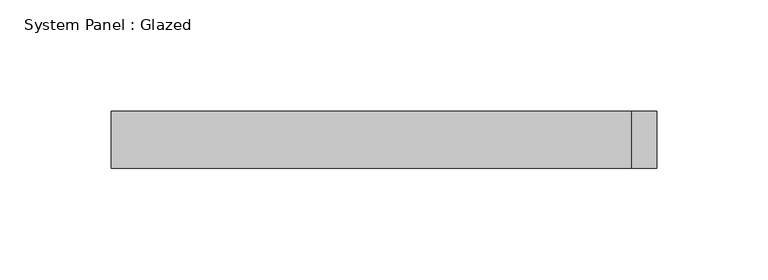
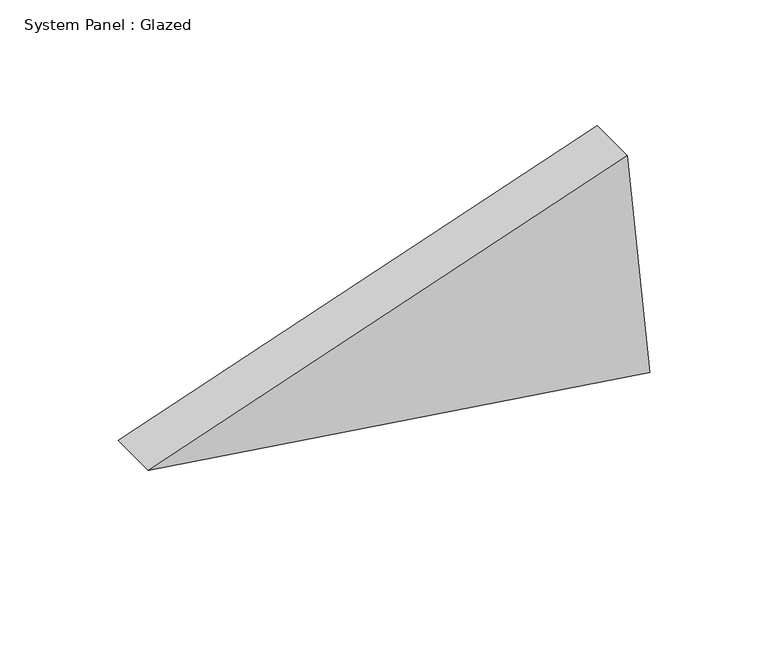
"""IFC4 building model written with IfcOpenShell, lengths in millimetres: plate geometry, System Panel : Glazed."""

from ifc_helpers import new_model, si_unit, frame, origin, place, context, project, spatial, polyline, outline, extrude, source, transform, mapped, element, save


def system_panel_glazed_3ea0f70b(model_context):
    return source(origin(), model_context, "Body", "SweptSolid", [
        extrude(outline(polyline([(35.2033413, -122.2976882), (0.0, 122.2976882), (115.8976043, 111.2715934), (35.2033413, -122.2976882)])), frame((0.0, -44.45, 0.0), z_axis=(0.0, 1.0, 0.0), x_axis=(0.0, 0.0, 1.0)), (0.0, 0.0, 1.0), 25.4),
    ])


if __name__ == "__main__":
    model = new_model("IFC4")
    model_context = context("Model", 3, world=origin())
    ifc_project = project(units=[si_unit("LENGTHUNIT", "METRE", prefix="MILLI")], contexts=[model_context])
    site = spatial("IfcSite", under=ifc_project)
    building = spatial("IfcBuilding", under=site)
    placement = place(None, origin())
    system_panel_glazed_shape = system_panel_glazed_3ea0f70b(model_context)
    element("IfcPlate", 1, ObjectType="System Panel : Glazed", at=placement, inside=building, context=model_context, shape_type="MappedRepresentation", body=[
        mapped(system_panel_glazed_shape, transform((0.0, 0.0, 0.0), x_axis=(1.0, 0.0, 0.0), y_axis=(0.0, 1.0, 0.0), z_axis=(0.0, 0.0, 1.0))),
    ])
    save(model, "model.ifc")
